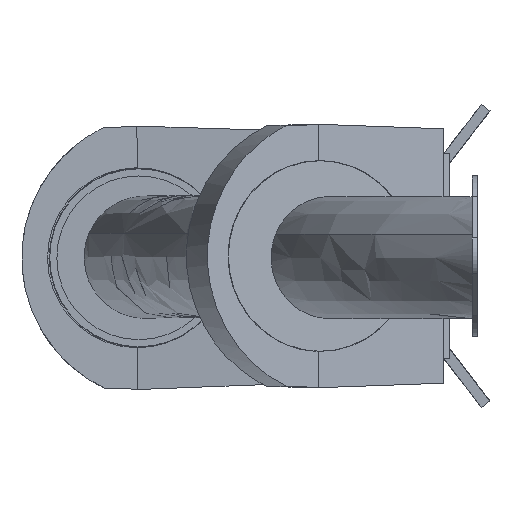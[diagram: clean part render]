
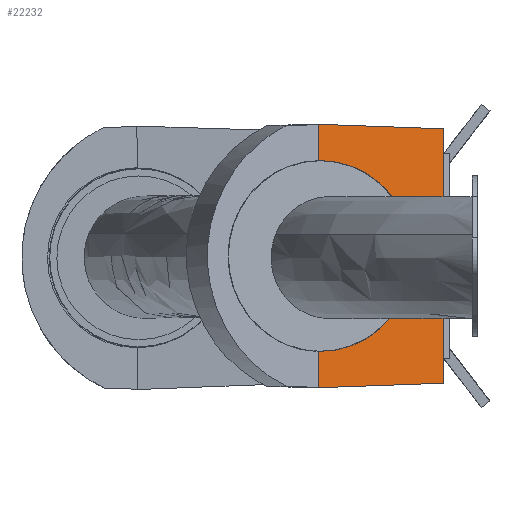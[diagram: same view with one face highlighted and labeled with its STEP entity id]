
A CAD part, left-side view. The second image highlights one B-rep face of the part: STEP entity #22232.
In plain terms, the highlighted planar face has unit normal (-0.974, -0.225, 0).
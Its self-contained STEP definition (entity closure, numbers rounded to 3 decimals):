
#87 = VERTEX_POINT ( 'NONE', #824 ) ;
#101 = VERTEX_POINT ( 'NONE', #809 ) ;
#184 = VERTEX_POINT ( 'NONE', #6003 ) ;
#185 = VERTEX_POINT ( 'NONE', #6004 ) ;
#200 = VERTEX_POINT ( 'NONE', #6019 ) ;
#443 = VERTEX_POINT ( 'NONE', #6027 ) ;
#710 = LINE ( 'NONE', #37304, #713 ) ;
#712 = LINE ( 'NONE', #37306, #715 ) ;
#713 = VECTOR ( 'NONE', #37305, 1000. ) ;
#715 = VECTOR ( 'NONE', #37307, 1000. ) ;
#803 = VERTEX_POINT ( 'NONE', #6053 ) ;
#809 = CARTESIAN_POINT ( 'NONE',  ( 912.088, 181.49, 2071.445 ) ) ;
#824 = CARTESIAN_POINT ( 'NONE',  ( 912.088, 181.49, 2198.991 ) ) ;
#1719 = FACE_OUTER_BOUND ( 'NONE', #14439, .T. ) ;
#1801 = LINE ( 'NONE', #36266, #1804 ) ;
#1804 = VECTOR ( 'NONE', #36268, 1000. ) ;
#1805 = LINE ( 'NONE', #36267, #1810 ) ;
#1810 = VECTOR ( 'NONE', #36273, 1000. ) ;
#1813 = LINE ( 'NONE', #36278, #1816 ) ;
#1816 = VECTOR ( 'NONE', #36280, 1000. ) ;
#2598 = CARTESIAN_POINT ( 'NONE',  ( 924.303, 128.58, 2093.287 ) ) ;
#2599 = CARTESIAN_POINT ( 'NONE',  ( 924.303, 128.58, 2124.991 ) ) ;
#2893 = EDGE_CURVE ( 'NONE', #101, #185, #7917, .T. ) ;
#3174 = EDGE_CURVE ( 'NONE', #185, #184, #7864, .T. ) ;
#3238 = EDGE_CURVE ( 'NONE', #184, #87, #710, .T. ) ;
#3240 = EDGE_CURVE ( 'NONE', #200, #101, #712, .T. ) ;
#6003 = CARTESIAN_POINT ( 'NONE',  ( 912.088, 181.49, 2178.536 ) ) ;
#6004 = CARTESIAN_POINT ( 'NONE',  ( 924.303, 128.58, 2124.991 ) ) ;
#6019 = CARTESIAN_POINT ( 'NONE',  ( 912.088, 181.49, 2050.991 ) ) ;
#6027 = CARTESIAN_POINT ( 'NONE',  ( 928.294, 111.293, 2053.505 ) ) ;
#6053 = CARTESIAN_POINT ( 'NONE',  ( 928.294, 111.293, 2196.476 ) ) ;
#6211 = CARTESIAN_POINT ( 'NONE',  ( 912.088, 181.49, 2071.445 ) ) ;
#6213 = CARTESIAN_POINT ( 'NONE',  ( 919.223, 150.583, 2071.02 ) ) ;
#7864 =( BOUNDED_CURVE ( )  B_SPLINE_CURVE ( 3, ( #36851, #36850, #36858, #36859 ),
 .UNSPECIFIED., .F., .T. ) 
 B_SPLINE_CURVE_WITH_KNOTS ( ( 4, 4 ),
 ( 3.142, 4.726 ),
 .UNSPECIFIED. ) 
 CURVE ( )  GEOMETRIC_REPRESENTATION_ITEM ( )  RATIONAL_B_SPLINE_CURVE ( ( 1., 0.802, 0.802, 1. ) ) 
 REPRESENTATION_ITEM ( '' )  );
#7917 =( BOUNDED_CURVE ( )  B_SPLINE_CURVE ( 3, ( #6211, #6213, #2598, #2599 ),
 .UNSPECIFIED., .F., .T. ) 
 B_SPLINE_CURVE_WITH_KNOTS ( ( 4, 4 ),
 ( 1.557, 3.142 ),
 .UNSPECIFIED. ) 
 CURVE ( )  GEOMETRIC_REPRESENTATION_ITEM ( )  RATIONAL_B_SPLINE_CURVE ( ( 1., 0.802, 0.802, 1. ) ) 
 REPRESENTATION_ITEM ( '' )  );
#7956 = ORIENTED_EDGE ( 'NONE', *, *, #2893, .F. ) ;
#7957 = ORIENTED_EDGE ( 'NONE', *, *, #3240, .F. ) ;
#7958 = ORIENTED_EDGE ( 'NONE', *, *, #40214, .F. ) ;
#7959 = ORIENTED_EDGE ( 'NONE', *, *, #40200, .T. ) ;
#7960 = ORIENTED_EDGE ( 'NONE', *, *, #40207, .F. ) ;
#7961 = ORIENTED_EDGE ( 'NONE', *, *, #3238, .F. ) ;
#7962 = ORIENTED_EDGE ( 'NONE', *, *, #3174, .F. ) ;
#14439 = EDGE_LOOP ( 'NONE', ( #7956, #7957, #7958, #7959, #7960, #7961, #7962 ) ) ;
#20060 = CARTESIAN_POINT ( 'NONE',  ( 911.039, 186.032, 2024.991 ) ) ;
#20064 = PLANE ( 'NONE',  #41030 ) ;
#20066 = DIRECTION ( 'NONE',  ( 0.974, 0.225, 0. ) ) ;
#20067 = DIRECTION ( 'NONE',  ( -0.225, 0.974, 0. ) ) ;
#22232 = ADVANCED_FACE ( 'NONE', ( #1719 ), #20064, .F. ) ;
#36266 = CARTESIAN_POINT ( 'NONE',  ( 928.294, 111.293, 2062.991 ) ) ;
#36267 = CARTESIAN_POINT ( 'NONE',  ( 912.102, 181.426, 2198.988 ) ) ;
#36268 = DIRECTION ( 'NONE',  ( 0., 0., 1. ) ) ;
#36273 = DIRECTION ( 'NONE',  ( 0.225, -0.974, -0.035 ) ) ;
#36278 = CARTESIAN_POINT ( 'NONE',  ( 918.677, 152.949, 2052.013 ) ) ;
#36280 = DIRECTION ( 'NONE',  ( -0.225, 0.974, -0.035 ) ) ;
#36850 = CARTESIAN_POINT ( 'NONE',  ( 924.303, 128.58, 2156.694 ) ) ;
#36851 = CARTESIAN_POINT ( 'NONE',  ( 924.303, 128.58, 2124.991 ) ) ;
#36858 = CARTESIAN_POINT ( 'NONE',  ( 919.223, 150.583, 2178.961 ) ) ;
#36859 = CARTESIAN_POINT ( 'NONE',  ( 912.088, 181.49, 2178.536 ) ) ;
#37304 = CARTESIAN_POINT ( 'NONE',  ( 912.088, 181.49, 2050.991 ) ) ;
#37305 = DIRECTION ( 'NONE',  ( 0., 0., 1. ) ) ;
#37306 = CARTESIAN_POINT ( 'NONE',  ( 912.088, 181.49, 2050.991 ) ) ;
#37307 = DIRECTION ( 'NONE',  ( 0., 0., 1. ) ) ;
#40200 = EDGE_CURVE ( 'NONE', #443, #803, #1801, .T. ) ;
#40207 = EDGE_CURVE ( 'NONE', #87, #803, #1805, .T. ) ;
#40214 = EDGE_CURVE ( 'NONE', #443, #200, #1813, .T. ) ;
#41030 = AXIS2_PLACEMENT_3D ( 'NONE', #20060, #20066, #20067 ) ;
